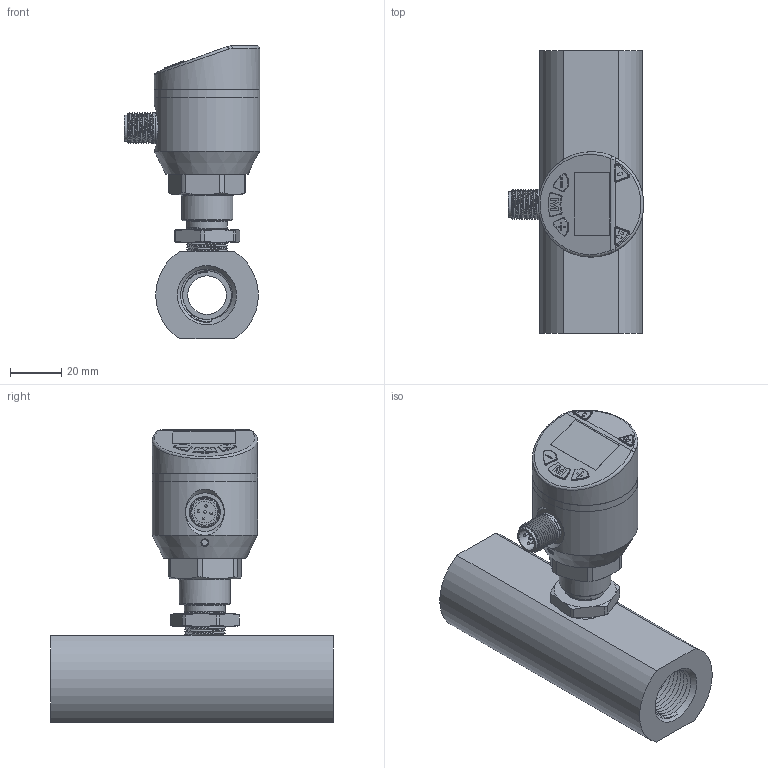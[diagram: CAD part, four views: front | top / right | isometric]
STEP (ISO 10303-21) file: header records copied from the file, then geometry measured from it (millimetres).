
FILE_DESCRIPTION( (''), '2;1');
FILE_NAME( 'QTKA_DN15_female-thread.step', '2024-01-11T15:05:20+08:00', (''), (''), '', '', '');
FILE_SCHEMA (('AUTOMOTIVE_DESIGN { 1 0 10303 214 3 1 1 1 }'));
Length unit declared in the file: millimetre
Products named in the file (1): QTKA DN15_female-thread
Bounding box: 52.7 x 110 x 114.3 mm (x, y, z)
Volume: 137774.6 mm3; surface area: 48819.9 mm2
Topology: 5 solids, 7 shells, 449 faces, 1086 edges, 687 vertices
Faces by surface type: plane 152, cylinder 141, bspline 60, cone 51, torus 39, sphere 6
Full cylindrical faces by diameter (mm): 1 x5, 2.7 x4, 8.4 x1, 9.7 x1, 9.8 x1, 10.1 x1, 11.6 x1, 12 x1, 15 x2, 15.9 x1, 19 x2, 20 x1, 23 x3, 26 x4, 26.1 x1, 37 x1, 41 x3
Entity records: 31964 total; most frequent: CARTESIAN_POINT 20872, ORIENTED_EDGE 1960, DIRECTION 1888, EDGE_CURVE 980, AXIS2_PLACEMENT_3D 751, VERTEX_POINT 641, EDGE_LOOP 543, ADVANCED_FACE 443
